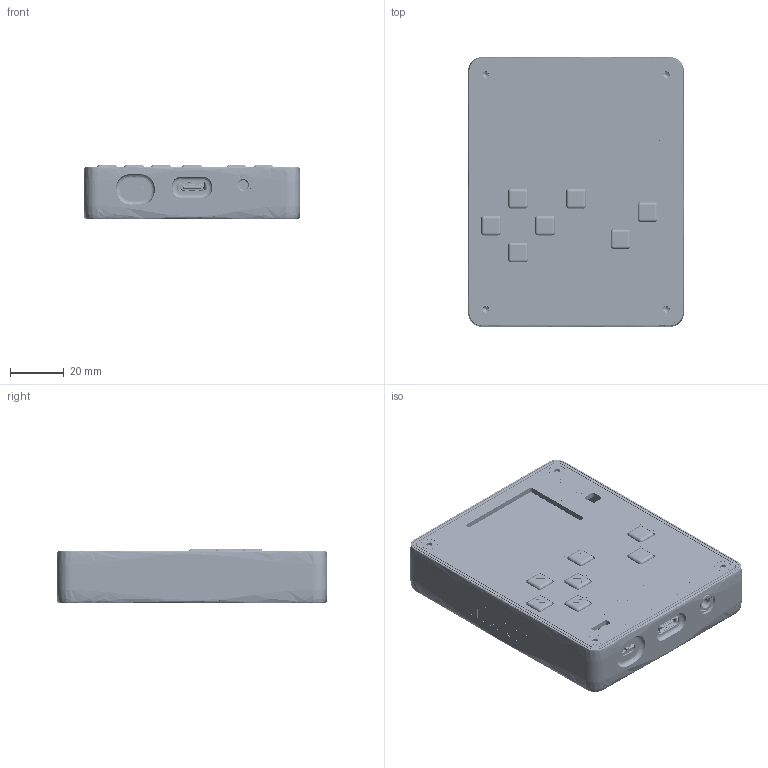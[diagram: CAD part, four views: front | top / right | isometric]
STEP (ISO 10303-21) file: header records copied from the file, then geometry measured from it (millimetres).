
FILE_DESCRIPTION (( 'STEP AP214' ), '1' );
FILE_NAME ('Ñáîðêà.STEP', '2026-03-27T10:33:41', ( '' ), ( '' ), 'SwSTEP 2.0', 'SolidWorks 2025', '' );
FILE_SCHEMA (( 'AUTOMOTIVE_DESIGN' ));
Length unit declared in the file: millimetre
Products named in the file (15): PLS-8; Сборка; корпус mikboy2_Двухцветная печать; Модель дисплея 1,77; Ответная часть; Сборка ПП; Рамка; Кнопки; User Library-R1001N12B1; Console_REV2; CMUCF661030E; PBS-8; 7191 M3x16; Движок переключателя; PLS-4
Assembly tree (18 placements, depth 3):
  Сборка
    корпус mikboy2_Двухцветная печать
    Ответная часть
    Сборка ПП
      Console_REV2
      PBS-8  x2
      User Library-R1001N12B1
      Модель дисплея 1,77
      PLS-8
      PLS-4
      Движок переключателя
      CMUCF661030E
    Рамка
    Кнопки
    7191 M3x16  x4
Bounding box: 80 x 100 x 20.1 mm (x, y, z)
Volume: 61730.4 mm3; surface area: 73809.2 mm2
Topology: 142 solids, 142 shells, 9193 faces, 24444 edges, 15827 vertices
Faces by surface type: plane 5806, cylinder 2834, torus 228, bspline 189, cone 98, sphere 38
Entity records: 350672 total; most frequent: CARTESIAN_POINT 58334, ORIENTED_EDGE 45980, DIRECTION 45374, EDGE_CURVE 22990, LINE 16500, VECTOR 16500, VERTEX_POINT 14952, AXIS2_PLACEMENT_3D 14437
